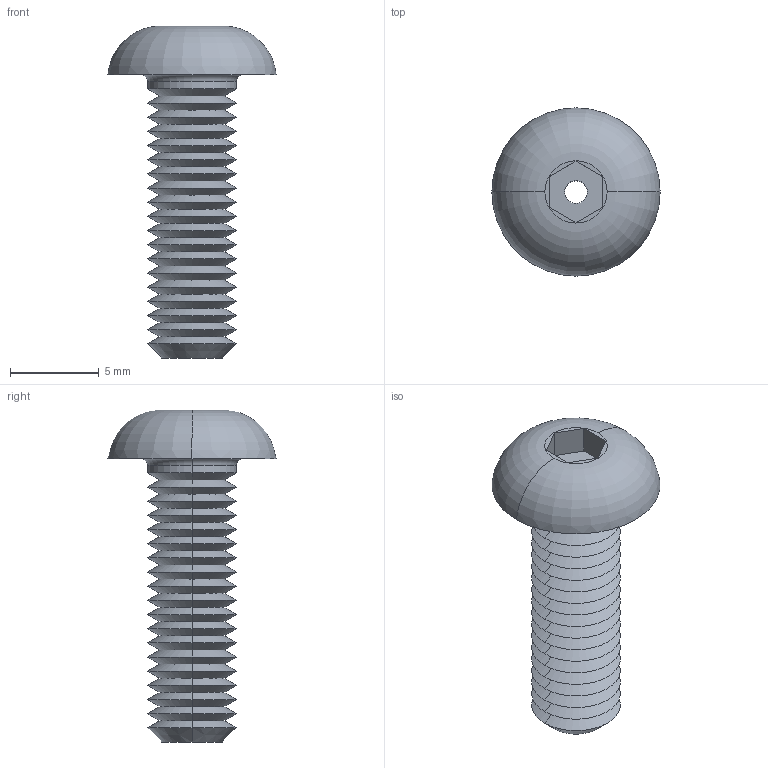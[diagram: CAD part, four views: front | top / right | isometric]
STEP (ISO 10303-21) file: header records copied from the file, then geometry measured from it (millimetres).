
FILE_DESCRIPTION (( 'STEP AP203' ), '1' );
FILE_NAME ('P0094.050-016-A2.step', '2019-07-12T16:53:55', ( '' ), ( '' ), 'SwSTEP 2.0', 'SolidWorks 2017', '' );
FILE_SCHEMA (( 'CONFIG_CONTROL_DESIGN' ));
Length unit declared in the file: millimetre
Products named in the file (1): P0094.050-016-A2
Bounding box: 9.5 x 9.5 x 18.75 mm (x, y, z)
Volume: 350.3 mm3; surface area: 669.6 mm2
Topology: 1 solids, 1 shells, 92 faces, 188 edges, 100 vertices
Faces by surface type: cone 74, plane 10, cylinder 4, torus 4
Entity records: 2437 total; most frequent: DIRECTION 466, CARTESIAN_POINT 381, ORIENTED_EDGE 376, EDGE_CURVE 188, AXIS2_PLACEMENT_3D 185, VERTEX_POINT 100, EDGE_LOOP 96, LINE 96
